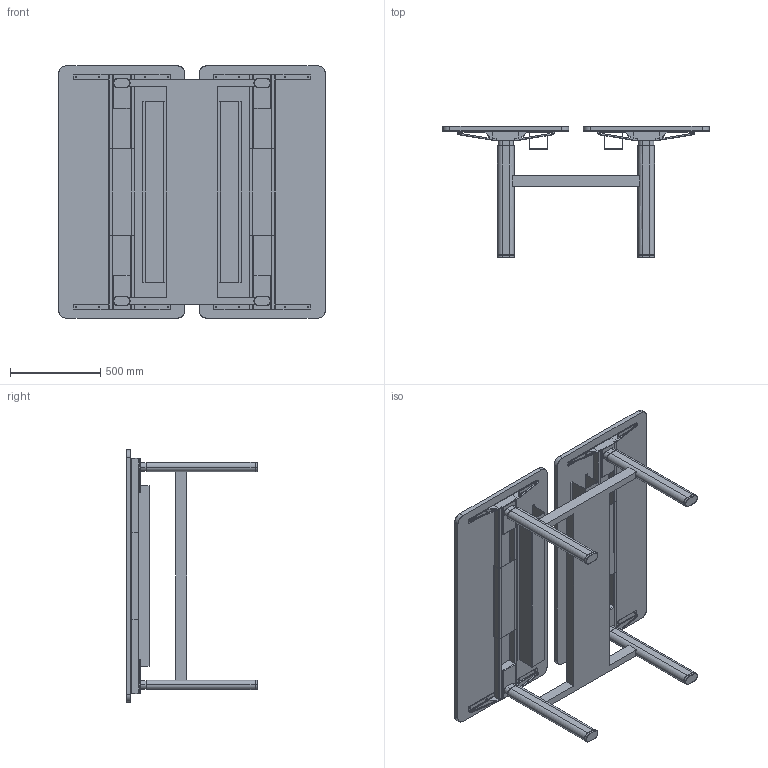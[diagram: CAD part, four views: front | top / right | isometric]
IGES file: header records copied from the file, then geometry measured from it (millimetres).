
Start section: SolidWorks IGES file using analytic representation for surfaces
Global section: file name: C:\Users\simone.cerana\OneDrive - Gruppo Tecno\Desktop\CHINA\DISEGNI DI SERIE\ASSIEMI LISTINO\AXIS LISTINO\FULL OPT\AX1414FO.IGS; native system: SolidWorks 2024; preprocessor: SolidWorks 2024; author: simone.cerana; date: 260512.105456; units: millimetre
Bounding box: 1480 x 730.09 x 1400 mm (x, y, z)
Surface area: 8264292.9 mm2 (no closed solid volume)
Topology: 0 solids, 0 shells, 626 faces, 6976 edges, 6968 vertices
Faces by surface type: bspline 338, revolution 288
